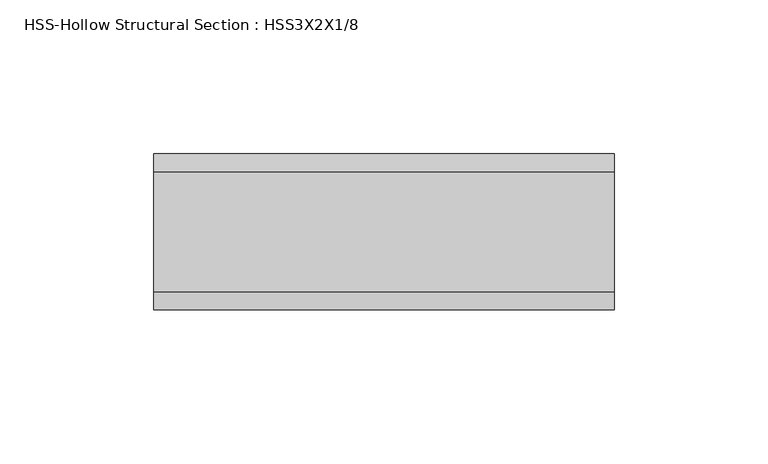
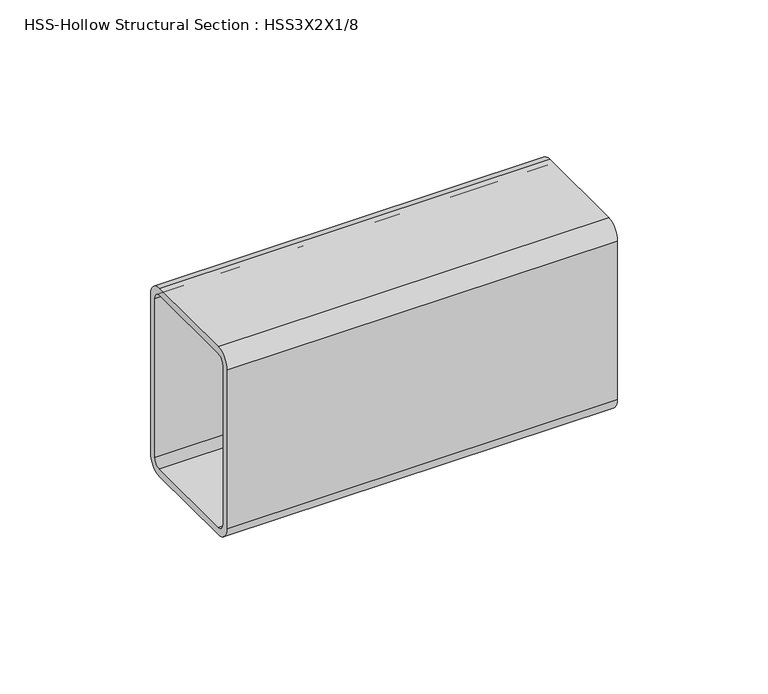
"""IFC4 building model written with IfcOpenShell, lengths in millimetres: beam geometry, HSS-Hollow Structural Section : HSS3X2X1/8."""

from ifc_helpers import new_model, si_unit, point, frame, frame_2d, origin, place, context, project, spatial, polyline, circle_curve, trimmed, segment, composite_curve, outline, extrude, source, transform, mapped, element, save


def hss_hollow_structural_section_hss3x2x1_8_4cf7df58(model_context):
    return source(origin(), model_context, "Body", "SweptSolid", [
        extrude(outline(composite_curve([segment(polyline([(25.4, 32.2072), (25.4, -32.2072)]), True, "CONTINUOUS"), segment(trimmed(circle_curve(frame_2d((19.5072, -32.2072)), 5.8928), [point((25.4, -32.2072))], [point((19.5072, -38.1))], False, "CARTESIAN"), True, "CONTINUOUS"), segment(polyline([(19.5072, -38.1), (-19.5072, -38.1)]), True, "CONTINUOUS"), segment(trimmed(circle_curve(frame_2d((-19.5072, -32.2072)), 5.8928), [point((-19.5072, -38.1))], [point((-25.4, -32.2072))], False, "CARTESIAN"), True, "CONTINUOUS"), segment(polyline([(-25.4, -32.2072), (-25.4, 32.2072)]), True, "CONTINUOUS"), segment(trimmed(circle_curve(frame_2d((-19.5072, 32.2072)), 5.8928), [point((-25.4, 32.2072))], [point((-19.5072, 38.1))], False, "CARTESIAN"), True, "CONTINUOUS"), segment(polyline([(-19.5072, 38.1), (19.5072, 38.1)]), True, "CONTINUOUS"), segment(trimmed(circle_curve(frame_2d((19.5072, 32.2072)), 5.8928), [point((19.5072, 38.1))], [point((25.4, 32.2072))], False, "CARTESIAN"), True, "CONTINUOUS")], self_intersect=False), holes=[composite_curve([segment(trimmed(circle_curve(frame_2d((-19.5072, 32.2072)), 2.9464), [point((-19.5072, 35.1536))], [point((-22.4536, 32.2072))], True, "CARTESIAN"), True, "CONTINUOUS"), segment(polyline([(-22.4536, 32.2072), (-22.4536, -32.2072)]), True, "CONTINUOUS"), segment(trimmed(circle_curve(frame_2d((-19.5072, -32.2072)), 2.9464), [point((-22.4536, -32.2072))], [point((-19.5072, -35.1536))], True, "CARTESIAN"), True, "CONTINUOUS"), segment(polyline([(-19.5072, -35.1536), (19.5072, -35.1536)]), True, "CONTINUOUS"), segment(trimmed(circle_curve(frame_2d((19.5072, -32.2072)), 2.9464), [point((19.5072, -35.1536))], [point((22.4536, -32.2072))], True, "CARTESIAN"), True, "CONTINUOUS"), segment(polyline([(22.4536, -32.2072), (22.4536, 32.2072)]), True, "CONTINUOUS"), segment(trimmed(circle_curve(frame_2d((19.5072, 32.2072)), 2.9464), [point((22.4536, 32.2072))], [point((19.5072, 35.1536))], True, "CARTESIAN"), True, "CONTINUOUS"), segment(polyline([(19.5072, 35.1536), (-19.5072, 35.1536)]), True, "CONTINUOUS")], self_intersect=False)]), frame((-35.6960312, 0.0, 0.0), z_axis=(1.0, 0.0, 0.0), x_axis=(0.0, 1.0, 0.0)), (0.0, 0.0, 1.0), 149.7871723),
    ])


if __name__ == "__main__":
    model = new_model("IFC4")
    model_context = context("Model", 3, world=origin())
    ifc_project = project(units=[si_unit("LENGTHUNIT", "METRE", prefix="MILLI")], contexts=[model_context])
    site = spatial("IfcSite", under=ifc_project)
    building = spatial("IfcBuilding", under=site)
    placement = place(None, origin())
    hss_hollow_structural_section_hss3x2x1_8_shape = hss_hollow_structural_section_hss3x2x1_8_4cf7df58(model_context)
    element("IfcBeam", 1, ObjectType="HSS-Hollow Structural Section : HSS3X2X1/8", at=placement, inside=building, context=model_context, shape_type="MappedRepresentation", body=[
        mapped(hss_hollow_structural_section_hss3x2x1_8_shape, transform((0.0, 0.0, 0.0), x_axis=(1.0, 0.0, 0.0), y_axis=(0.0, 1.0, 0.0), z_axis=(0.0, 0.0, 1.0))),
    ])
    save(model, "model.ifc")
